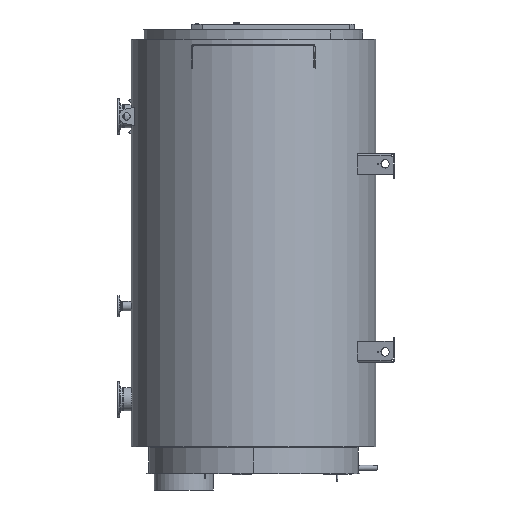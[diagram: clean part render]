
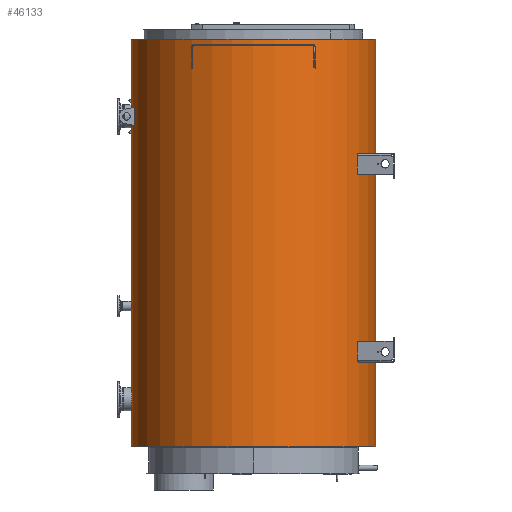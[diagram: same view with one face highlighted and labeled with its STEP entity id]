
A CAD part, left-side view. The second image highlights one B-rep face of the part: STEP entity #46133.
In plain terms, the highlighted cylindrical face has radius 1160 mm (diameter 2320 mm), a full revolution.
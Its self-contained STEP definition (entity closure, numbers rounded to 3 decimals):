
#46089=CARTESIAN_POINT('',(-1160.,-0.,281.));
#46090=VERTEX_POINT('',#46089);
#46091=CARTESIAN_POINT('',(0.,0.,281.));
#46092=DIRECTION('',(-0.,-0.,1.));
#46093=DIRECTION('',(-1.,0.,0.));
#46094=AXIS2_PLACEMENT_3D('',#46091,#46092,#46093);
#46095=CIRCLE('',#46094,1160.);
#46096=EDGE_CURVE('',#46090,#46090,#46095,.T.);
#46109=CARTESIAN_POINT('',(0.,0.,281.002));
#46110=DIRECTION('',(0.,0.,-1.));
#46111=DIRECTION('',(-1.,0.,0.));
#46112=AXIS2_PLACEMENT_3D('',#46109,#46110,#46111);
#46113=CYLINDRICAL_SURFACE('',#46112,1160.);
#46114=CARTESIAN_POINT('',(-1160.,-0.,-3585.));
#46115=VERTEX_POINT('',#46114);
#46116=CARTESIAN_POINT('',(-1160.,0.,-3585.));
#46117=DIRECTION('',(-0.,-0.,1.));
#46118=VECTOR('',#46117,3866.);
#46119=LINE('',#46116,#46118);
#46120=EDGE_CURVE('',#46115,#46090,#46119,.T.);
#46121=ORIENTED_EDGE('',*,*,#46120,.T.);
#46122=ORIENTED_EDGE('',*,*,#46096,.F.);
#46123=ORIENTED_EDGE('',*,*,#46120,.F.);
#46124=CARTESIAN_POINT('',(0.,0.,-3585.));
#46125=DIRECTION('',(0.,0.,-1.));
#46126=DIRECTION('',(-1.,0.,0.));
#46127=AXIS2_PLACEMENT_3D('',#46124,#46125,#46126);
#46128=CIRCLE('',#46127,1160.);
#46129=EDGE_CURVE('',#46115,#46115,#46128,.T.);
#46130=ORIENTED_EDGE('',*,*,#46129,.F.);
#46131=EDGE_LOOP('',(#46121,#46122,#46123,#46130));
#46132=FACE_BOUND('',#46131,.T.);
#46133=ADVANCED_FACE('',(#46132),#46113,.T.);
